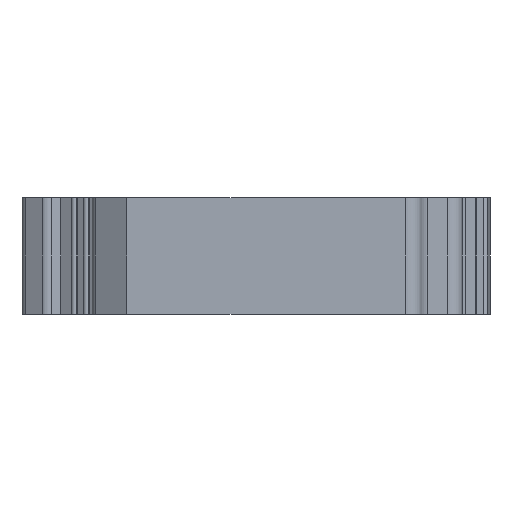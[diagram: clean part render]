
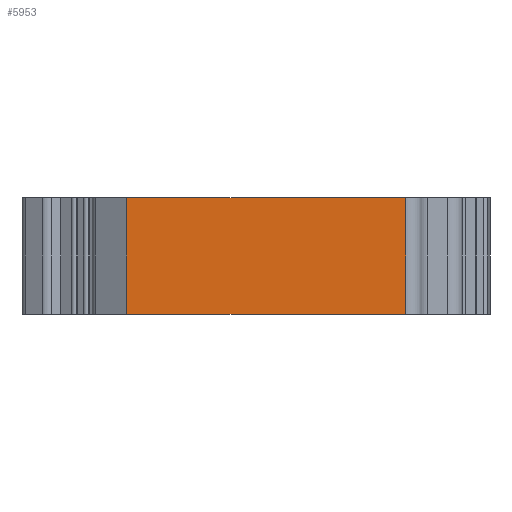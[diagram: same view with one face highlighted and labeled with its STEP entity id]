
A CAD part, left-side view. The second image highlights one B-rep face of the part: STEP entity #5953.
In plain terms, the highlighted planar face has unit normal (-1, 0, 0).
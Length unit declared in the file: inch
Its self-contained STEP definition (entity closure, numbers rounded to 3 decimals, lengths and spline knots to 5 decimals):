
#98=DIRECTION('',(0.,-1.,0.));
#99=VECTOR('',#98,36.5);
#100=CARTESIAN_POINT('',(-17.82661,19.54167,0.));
#101=LINE('',#100,#99);
#841=DIRECTION('',(0.,0.,1.));
#842=VECTOR('',#841,15.2);
#843=CARTESIAN_POINT('',(-17.82661,-16.95833,0.));
#844=LINE('',#843,#842);
#845=DIRECTION('',(0.,0.,1.));
#846=VECTOR('',#845,15.2);
#847=CARTESIAN_POINT('',(-17.82661,19.54167,0.));
#848=LINE('',#847,#846);
#1301=DIRECTION('',(0.,-1.,0.));
#1302=VECTOR('',#1301,36.5);
#1303=CARTESIAN_POINT('',(-17.82661,19.54167,15.2));
#1304=LINE('',#1303,#1302);
#3417=CARTESIAN_POINT('',(-17.82661,19.54167,0.));
#3418=VERTEX_POINT('',#3417);
#3419=CARTESIAN_POINT('',(-17.82661,-16.95833,0.));
#3420=VERTEX_POINT('',#3419);
#3627=CARTESIAN_POINT('',(-17.82661,19.54167,15.2));
#3628=VERTEX_POINT('',#3627);
#3629=CARTESIAN_POINT('',(-17.82661,-16.95833,15.2));
#3630=VERTEX_POINT('',#3629);
#5940=CARTESIAN_POINT('',(-17.82661,19.54167,0.));
#5941=DIRECTION('',(-1.,0.,0.));
#5942=DIRECTION('',(0.,-1.,0.));
#5943=AXIS2_PLACEMENT_3D('',#5940,#5941,#5942);
#5944=PLANE('',#5943);
#5945=ORIENTED_EDGE('',*,*,#4528,.F.);
#5947=ORIENTED_EDGE('',*,*,#5946,.T.);
#5949=ORIENTED_EDGE('',*,*,#5948,.T.);
#5950=ORIENTED_EDGE('',*,*,#5932,.F.);
#5951=EDGE_LOOP('',(#5945,#5947,#5949,#5950));
#5952=FACE_OUTER_BOUND('',#5951,.F.);
#5953=ADVANCED_FACE('',(#5952),#5944,.T.);
#4528=EDGE_CURVE('',#3418,#3420,#101,.T.);
#5932=EDGE_CURVE('',#3420,#3630,#844,.T.);
#5946=EDGE_CURVE('',#3418,#3628,#848,.T.);
#5948=EDGE_CURVE('',#3628,#3630,#1304,.T.);
